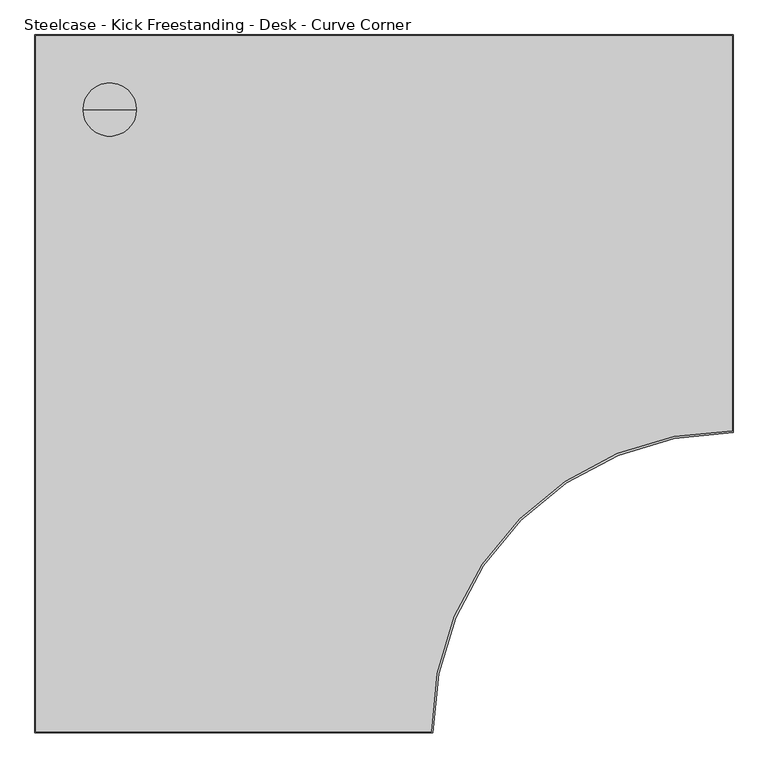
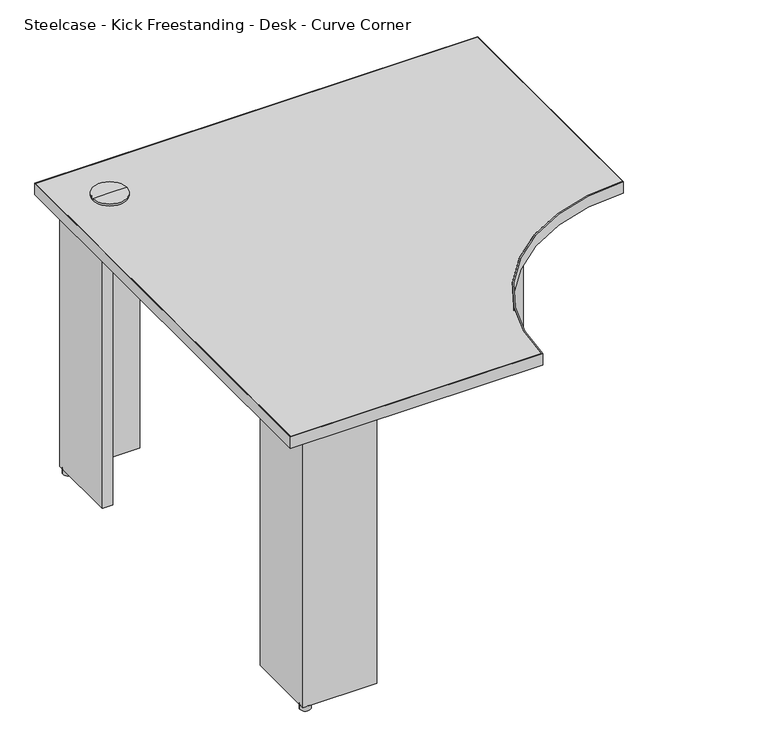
"""IFC4 building model written with IfcOpenShell, lengths in millimetres: furniture geometry, Steelcase - Kick Freestanding - Desk - Curve Corner : 24D x 42W - Two Clear Access Support - LPL."""

from ifc_helpers import new_model, si_unit, point, frame, frame_2d, origin, origin_with_axes, place, context, project, spatial, polyline, circle_curve, trimmed, segment, composite_curve, outline, extrude, source, transform, mapped, element, save
from ifc_brep_helpers import plane_surface, cylinder_surface, advanced_brep


def steelcase_kick_freestanding_desk_curve_corner_464aff0b(model_context):
    return source(origin(), model_context, "Body", "SolidModel", [
        extrude(outline(polyline([(874.0393822, -63.5), (874.0393822, -38.1), (1051.8393579, -38.1), (1051.8393579, -215.8999939), (1025.9313463, -215.8999939), (1025.9313463, -63.5), (874.0393822, -63.5)])), frame((0.0, 0.0, 12.446), z_axis=(0.0, 0.0, 1.0), x_axis=(1.0, 0.0, 0.0)), (0.0, 0.0, 1.0), 682.498),
        extrude(outline(polyline([(215.8999939, -63.5), (63.5, -63.5), (63.5, -215.8999939), (38.1, -215.8999939), (38.1, -38.1), (215.8999939, -38.1), (215.8999939, -63.5)])), frame((0.0, 0.0, 12.446), z_axis=(0.0, 0.0, 1.0), x_axis=(1.0, 0.0, 0.0)), (0.0, 0.0, 1.0), 682.498),
        advanced_brep(
        [(114.3, -114.3, 728.98), (154.94, -114.3, 728.98), (73.66, -114.3, 728.98), (76.1699693, -114.3, 694.944), (152.4300307, -114.3, 694.944), (114.3, -114.3, 694.944), (76.1699693, -114.3, 723.9), (152.4300307, -114.3, 723.9), (73.66, -114.3, 723.9), (154.94, -114.3, 723.9)],
        [
            (0, 1),
            (1, 2, circle_curve(frame((114.3, -114.3, 728.98), z_axis=(0.0, 0.0, 1.0), x_axis=(1.0, 0.0, 0.0)), 40.64)),
            (2, 0),
            (2, 1, circle_curve(frame((114.3, -114.3, 728.98), z_axis=(0.0, 0.0, 1.0), x_axis=(1.0, 0.0, 0.0)), 40.64)),
            (3, 4, circle_curve(frame((114.3, -114.3, 694.944), z_axis=(0.0, 0.0, -1.0), x_axis=(1.0, 0.0, 0.0)), 38.1300307)),
            (4, 5),
            (5, 3),
            (4, 3, circle_curve(frame((114.3, -114.3, 694.944), z_axis=(0.0, 0.0, -1.0), x_axis=(1.0, 0.0, 0.0)), 38.1300307)),
            (6, 7, circle_curve(frame((114.3, -114.3, 723.9), z_axis=(0.0, 0.0, -1.0), x_axis=(1.0, 0.0, 0.0)), 38.1300307)),
            (7, 4),
            (3, 6),
            (7, 6, circle_curve(frame((114.3, -114.3, 723.9), z_axis=(0.0, 0.0, -1.0), x_axis=(1.0, 0.0, 0.0)), 38.1300307)),
            (8, 9, circle_curve(frame((114.3, -114.3, 723.9), z_axis=(0.0, 0.0, -1.0), x_axis=(1.0, 0.0, 0.0)), 40.64)),
            (9, 7),
            (6, 8),
            (9, 8, circle_curve(frame((114.3, -114.3, 723.9), z_axis=(0.0, 0.0, -1.0), x_axis=(1.0, 0.0, 0.0)), 40.64)),
            (1, 9),
            (8, 2),
        ],
        [
            plane_surface(frame((114.3, -114.3, 728.98), z_axis=(0.0, 0.0, 1.0), x_axis=(1.0, 0.0, 0.0))),
            plane_surface(frame((114.3, -114.3, 694.944), z_axis=(0.0, 0.0, -1.0), x_axis=(1.0, 0.0, 0.0))),
            cylinder_surface(frame((114.3, -114.3, 728.98), z_axis=(0.0, 0.0, 1.0), x_axis=(1.0, 0.0, 0.0)), 38.1300307),
            plane_surface(frame((114.3, -114.3, 723.9), z_axis=(0.0, 0.0, -1.0), x_axis=(1.0, 0.0, 0.0))),
            cylinder_surface(frame((114.3, -114.3, 728.98), z_axis=(0.0, 0.0, 1.0), x_axis=(1.0, 0.0, 0.0)), 40.64),
        ],
        [
            (0, [[1, 2, 3]]),
            (0, [[-3, 4, -1]]),
            (1, [[5, 6, 7]]),
            (1, [[8, -7, -6]]),
            (2, [[9, 10, -5, 11]]),
            (2, [[12, -11, -8, -10]]),
            (3, [[13, 14, -9, 15]]),
            (3, [[16, -15, -12, -14]]),
            (4, [[-2, 17, -13, 18]]),
            (4, [[-4, -18, -16, -17]]),
        ],
    ),
        extrude(outline(composite_curve([segment(trimmed(circle_curve(frame_2d((50.8, -50.8)), 12.7), [point((38.1, -50.8))], [point((63.5, -50.8))], False, "CARTESIAN"), True, "CONTINUOUS"), segment(trimmed(circle_curve(frame_2d((50.8, -50.8)), 12.7), [point((63.5, -50.8))], [point((38.1, -50.8))], False, "CARTESIAN"), True, "CONTINUOUS")], self_intersect=False)), origin_with_axes(), (0.0, 0.0, 1.0), 12.446),
        extrude(outline(composite_curve([segment(trimmed(circle_curve(frame_2d((50.8, -1040.1300073)), 12.7484998), [point((38.0515002, -1040.1300073))], [point((63.5484998, -1040.1300073))], False, "CARTESIAN"), True, "CONTINUOUS"), segment(trimmed(circle_curve(frame_2d((50.8, -1040.1300073)), 12.7484998), [point((63.5484998, -1040.1300073))], [point((38.0515002, -1040.1300073))], False, "CARTESIAN"), True, "CONTINUOUS")], self_intersect=False)), origin_with_axes(), (0.0, 0.0, 1.0), 12.446),
        extrude(outline(composite_curve([segment(trimmed(circle_curve(frame_2d((1038.8853521, -50.8)), 12.7), [point((1026.1853521, -50.8))], [point((1051.5853521, -50.8))], False, "CARTESIAN"), True, "CONTINUOUS"), segment(trimmed(circle_curve(frame_2d((1038.8853521, -50.8)), 12.7), [point((1051.5853521, -50.8))], [point((1026.1853521, -50.8))], False, "CARTESIAN"), True, "CONTINUOUS")], self_intersect=False)), origin_with_axes(), (0.0, 0.0, 1.0), 12.446),
        extrude(outline(polyline([(215.8999939, -1027.4300194), (215.8999939, -1052.8299952), (38.1, -1052.8299952), (38.1, -875.0300194), (63.5, -875.0300194), (63.5, -1027.4300194), (215.8999939, -1027.4300194)])), frame((0.0, 0.0, 12.446), z_axis=(0.0, 0.0, 1.0), x_axis=(1.0, 0.0, 0.0)), (0.0, 0.0, 1.0), 682.498),
        extrude(outline(composite_curve([segment(polyline([(0.9906, -1065.8093628), (0.9906, -0.9906), (1065.8093628, -0.9906), (1065.8093628, -605.3354109)]), True, "CONTINUOUS"), segment(trimmed(circle_curve(frame_2d((1064.5393458, -1064.5393458)), 459.2056912), [point((1065.8093628, -605.3354109))], [point((605.3354109, -1065.8093628))], True, "CARTESIAN"), True, "CONTINUOUS"), segment(polyline([(605.3354109, -1065.8093628), (0.9906, -1065.8093628)]), True, "CONTINUOUS")], self_intersect=False)), frame((0.0, 0.0, 694.944), z_axis=(0.0, 0.0, 1.0), x_axis=(1.0, 0.0, 0.0)), (0.0, 0.0, 1.0), 28.956),
        extrude(outline(composite_curve([segment(polyline([(1066.8, 0.0), (1066.8, -608.332629)]), True, "CONTINUOUS"), segment(trimmed(circle_curve(frame_2d((1065.529983, -1065.529983)), 457.199118), [point((1066.8, -608.332629))], [point((608.332629, -1066.8))], True, "CARTESIAN"), True, "CONTINUOUS"), segment(polyline([(608.332629, -1066.8), (0.0, -1066.8), (0.0, 0.0), (1066.8, 0.0)]), True, "CONTINUOUS")], self_intersect=False), holes=[composite_curve([segment(polyline([(1065.8093628, -0.9906), (0.9906, -0.9906), (0.9906, -1065.8093628), (605.3354109, -1065.8093628)]), True, "CONTINUOUS"), segment(trimmed(circle_curve(frame_2d((1064.5393458, -1064.5393458)), 459.2056912), [point((605.3354109, -1065.8093628))], [point((1065.8093628, -605.3354109))], False, "CARTESIAN"), True, "CONTINUOUS"), segment(polyline([(1065.8093628, -605.3354109), (1065.8093628, -0.9906)]), True, "CONTINUOUS")], self_intersect=False)]), frame((0.0, 0.0, 694.944), z_axis=(0.0, 0.0, 1.0), x_axis=(1.0, 0.0, 0.0)), (0.0, 0.0, 1.0), 28.956),
    ])


if __name__ == "__main__":
    model = new_model("IFC4")
    model_context = context("Model", 3, world=origin())
    ifc_project = project(units=[si_unit("LENGTHUNIT", "METRE", prefix="MILLI")], contexts=[model_context])
    site = spatial("IfcSite", under=ifc_project)
    building = spatial("IfcBuilding", under=site)
    placement = place(None, origin())
    steelcase_kick_freestanding_desk_curve_corner_shape = steelcase_kick_freestanding_desk_curve_corner_464aff0b(model_context)
    element("IfcFurniture", 1, ObjectType="Steelcase - Kick Freestanding - Desk - Curve Corner : 24D x 42W - Two Clear Access Support - LPL", at=placement, inside=building, context=model_context, shape_type="MappedRepresentation", body=[
        mapped(steelcase_kick_freestanding_desk_curve_corner_shape, transform((0.0, 0.0, 0.0), x_axis=(1.0, 0.0, 0.0), y_axis=(0.0, 1.0, 0.0), z_axis=(0.0, 0.0, 1.0))),
    ])
    save(model, "model.ifc")
